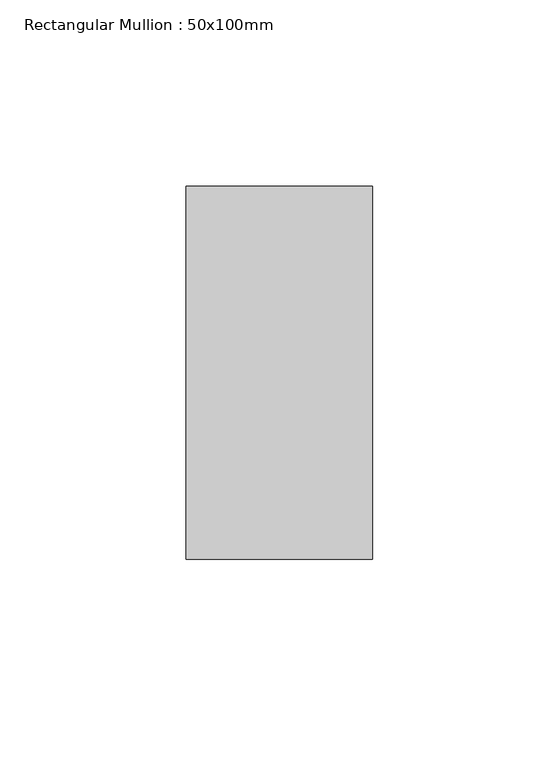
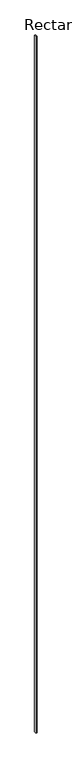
"""IFC4 building model written with IfcOpenShell, lengths in millimetres: member geometry, Rectangular Mullion : 50x100mm."""

import ifcopenshell
import ifcopenshell.guid

model = None  # the IFC model being written
_history = None  # IfcOwnerHistory: only IFC2X3 demands one
_inside = {}  # id of a spatial element -> (the spatial element, [elements in it])
_under = {}  # id of a project, library or spatial element -> (it, [spatial elements below it])
_declared = {}  # id of a project -> (the project, [libraries it declares])
_typed = {}  # id of a type object -> (the type object, [elements of that type])
_made_of = {}  # id of a material, layer set ... -> (it, [elements and type objects made of it])


def new_model(schema):
    """Start an empty IFC model of exactly this schema.

    Asked for "IFC4X3", IfcOpenShell would pick the latest addendum, in which some entities
    have other attributes; the version numbers below select the first issue.
    IFC2X3 requires an IfcOwnerHistory on every rooted entity: one is made here for all.
    """
    global model, _history
    if schema == "IFC4X3":
        model = ifcopenshell.file(schema_version=(4, 3, 0, 0))
    else:
        model = ifcopenshell.file(schema=schema)
    _inside.clear()
    _under.clear()
    _declared.clear()
    _typed.clear()
    _made_of.clear()
    _history = None
    if model.schema == "IFC2X3":
        org = make("IfcOrganization", Name="unknown")
        user = make(
            "IfcPersonAndOrganization",
            ThePerson=make("IfcPerson", FamilyName="unknown"),
            TheOrganization=org,
        )
        app = make(
            "IfcApplication",
            ApplicationDeveloper=org,
            Version="unknown",
            ApplicationFullName="unknown",
            ApplicationIdentifier="unknown",
        )
        _history = make(
            "IfcOwnerHistory",
            OwningUser=user,
            OwningApplication=app,
            ChangeAction="ADDED",
            CreationDate=0,
        )
    return model


def make(cls, **values):
    """One entity of the class cls with the attributes given. An attribute that is None is left unset."""
    return model.create_entity(
        cls, **{name: value for name, value in values.items() if value is not None}
    )


def rooted(cls, **values):
    """An entity with a GlobalId (a new one), such as an element, a storey or a relation."""
    return make(cls, GlobalId=ifcopenshell.guid.new(), OwnerHistory=_history, **values)


def si_unit(unit_type, name, prefix=None):
    """IfcSIUnit, for example si_unit("LENGTHUNIT", "METRE", prefix="MILLI")."""
    return make("IfcSIUnit", UnitType=unit_type, Prefix=prefix, Name=name)


def assignment(units):
    """IfcUnitAssignment: the units of a project."""
    return None if units is None else make("IfcUnitAssignment", Units=units)


def point(xyz):
    """IfcCartesianPoint."""
    return None if xyz is None else make("IfcCartesianPoint", Coordinates=xyz)


def direction(xyz):
    """IfcDirection."""
    return None if xyz is None else make("IfcDirection", DirectionRatios=xyz)


def frame(location, z_axis=None, x_axis=None):
    """IfcAxis2Placement3D, a coordinate frame: its origin and axes. An axis left out is left unset."""
    return make(
        "IfcAxis2Placement3D",
        Location=point(location),
        Axis=direction(z_axis),
        RefDirection=direction(x_axis),
    )


def origin():
    """The frame at (0, 0, 0) with its axes left unset."""
    return frame((0.0, 0.0, 0.0))


def place(relative_to, where):
    """IfcLocalPlacement: puts the frame where relative to a parent placement (None: the world)."""
    return make(
        "IfcLocalPlacement", PlacementRelTo=relative_to, RelativePlacement=where
    )


def context(
    kind, dimensions, precision=None, world=None, true_north=None, identifier=None
):
    """IfcGeometricRepresentationContext, for example the 3D "Model" context."""
    return make(
        "IfcGeometricRepresentationContext",
        ContextIdentifier=identifier,
        ContextType=kind,
        CoordinateSpaceDimension=dimensions,
        Precision=precision,
        WorldCoordinateSystem=world,
        TrueNorth=true_north,
    )


def project(units=None, contexts=None):
    """IfcProject with its units and contexts."""
    return rooted(
        "IfcProject",
        Name="project",
        RepresentationContexts=contexts,
        UnitsInContext=assignment(units),
    )


def spatial(cls, under=None, at=None, **own):
    """A site, building, storey or space (cls), placed at a placement, below another one or the project."""
    s = rooted(cls, ObjectPlacement=at, **own)
    if under is not None:
        _under.setdefault(under.id(), (under, []))[1].append(s)
    return s


def polyline(points):
    """IfcPolyline through the points."""
    return make("IfcPolyline", Points=[point(p) for p in points])


def outline(outer, holes=None, kind="AREA"):
    """IfcArbitraryClosedProfileDef: a profile drawn as a closed curve; with holes, ...WithVoids."""
    if holes is None:
        return make("IfcArbitraryClosedProfileDef", ProfileType=kind, OuterCurve=outer)
    return make(
        "IfcArbitraryProfileDefWithVoids",
        ProfileType=kind,
        OuterCurve=outer,
        InnerCurves=holes,
    )


def extrude(swept, where, along, depth):
    """IfcExtrudedAreaSolid: the profile swept, set in the frame where, extruded along a direction by depth."""
    return make(
        "IfcExtrudedAreaSolid",
        SweptArea=swept,
        Position=where,
        ExtrudedDirection=direction(along),
        Depth=depth,
    )


def shape(context_of_items, identifier, shape_type, items):
    """IfcShapeRepresentation: the items that make up one representation, for example the "Body"."""
    return make(
        "IfcShapeRepresentation",
        ContextOfItems=context_of_items,
        RepresentationIdentifier=identifier,
        RepresentationType=shape_type,
        Items=items,
    )


def source(mapping_origin, context_of_items, identifier, shape_type, items):
    """IfcRepresentationMap: a shape defined once, which mapped items show again and again."""
    return make(
        "IfcRepresentationMap",
        MappingOrigin=mapping_origin,
        MappedRepresentation=shape(context_of_items, identifier, shape_type, items),
    )


def transform(
    local_origin,
    x_axis=None,
    y_axis=None,
    z_axis=None,
    scale=None,
    scale2=None,
    scale3=None,
    uniform=True,
):
    """IfcCartesianTransformationOperator3D, or its non-uniform kind. x_axis, y_axis, z_axis: its Axis1, 2, 3."""
    if uniform:
        return make(
            "IfcCartesianTransformationOperator3D",
            Axis1=direction(x_axis),
            Axis2=direction(y_axis),
            LocalOrigin=point(local_origin),
            Scale=scale,
            Axis3=direction(z_axis),
        )
    return make(
        "IfcCartesianTransformationOperator3DnonUniform",
        Axis1=direction(x_axis),
        Axis2=direction(y_axis),
        LocalOrigin=point(local_origin),
        Scale=scale,
        Axis3=direction(z_axis),
        Scale2=scale2,
        Scale3=scale3,
    )


def mapped(mapping_source, mapping_target):
    """IfcMappedItem: shows the shape of a source again, moved by a transform."""
    return make(
        "IfcMappedItem", MappingSource=mapping_source, MappingTarget=mapping_target
    )


def made_of(thing, what):
    """Note that an element or type object is made of a material, layer set ...; save() writes the relation."""
    if what is not None:
        _made_of.setdefault(what.id(), (what, []))[1].append(thing)
    return thing


def element(
    cls,
    number,
    at=None,
    inside=None,
    cuts=None,
    type_object=None,
    material=None,
    context=None,
    identifier="Body",
    shape_type=None,
    held_by="IfcProductDefinitionShape",
    body=None,
    shapes=None,
    **own,
):
    """One element of the class cls, such as IfcWall. Its Tag is "e" and its number.

    at: its placement. inside: the storey or other place that contains it. cuts: it is an
    opening in that element (IfcRelVoidsElement). A single representation is given by context,
    identifier, shape_type and body (its items); several are given by shapes. held_by: the class
    of the entity that holds the representations. save() writes the other relations.
    """
    e = rooted(cls, Tag="e%d" % number, ObjectPlacement=at, **own)
    if body is not None:
        shapes = [shape(context, identifier, shape_type, body)]
    if shapes is not None:
        e.Representation = make(held_by, Representations=shapes)
    if inside is not None:
        _inside.setdefault(inside.id(), (inside, []))[1].append(e)
    if cuts is not None:
        rooted(
            "IfcRelVoidsElement", RelatingBuildingElement=cuts, RelatedOpeningElement=e
        )
    if type_object is not None:
        _typed.setdefault(type_object.id(), (type_object, []))[1].append(e)
    return made_of(e, material)


def aggregate(whole, parts):
    """IfcRelAggregates: a whole, such as a stair, and the parts it consists of."""
    return rooted("IfcRelAggregates", RelatingObject=whole, RelatedObjects=parts)


def save(model, path):
    """Write the relations noted so far, then the file.

    IfcRelAggregates (storeys below a building ...), IfcRelContainedInSpatialStructure (elements
    in a storey), IfcRelDefinesByType, IfcRelAssociatesMaterial and IfcRelDeclares: one each for
    every whole, place, type object, material and project.
    """
    for whole, parts in _under.values():
        aggregate(whole, parts)
    for where, things in _inside.values():
        rooted(
            "IfcRelContainedInSpatialStructure",
            RelatedElements=things,
            RelatingStructure=where,
        )
    for kind, things in _typed.values():
        rooted("IfcRelDefinesByType", RelatedObjects=things, RelatingType=kind)
    for what, things in _made_of.values():
        rooted("IfcRelAssociatesMaterial", RelatedObjects=things, RelatingMaterial=what)
    for by, libraries in _declared.values():
        rooted("IfcRelDeclares", RelatingContext=by, RelatedDefinitions=libraries)
    model.write(path)


def rectangular_mullion_50x100mm_5f0a7d45(model_context):
    return source(origin(), model_context, "Body", "SweptSolid", [
        extrude(outline(polyline([(25.0, 50.0), (25.0, -50.0), (-25.0, -50.0), (-25.0, 50.0), (25.0, 50.0)])), frame((0.0, 0.0, -34247.5236054), z_axis=(0.0, 0.0, 1.0), x_axis=(1.0, 0.0, 0.0)), (0.0, 0.0, 1.0), 34247.5236054),
    ])


if __name__ == "__main__":
    model = new_model("IFC4")
    model_context = context("Model", 3, world=origin())
    ifc_project = project(units=[si_unit("LENGTHUNIT", "METRE", prefix="MILLI")], contexts=[model_context])
    site = spatial("IfcSite", under=ifc_project)
    building = spatial("IfcBuilding", under=site)
    placement = place(None, origin())
    rectangular_mullion_50x100mm_shape = rectangular_mullion_50x100mm_5f0a7d45(model_context)
    element("IfcMember", 1, ObjectType="Rectangular Mullion : 50x100mm", at=placement, inside=building, context=model_context, shape_type="MappedRepresentation", body=[
        mapped(rectangular_mullion_50x100mm_shape, transform((0.0, 0.0, 0.0), x_axis=(1.0, 0.0, 0.0), y_axis=(0.0, 1.0, 0.0), z_axis=(0.0, 0.0, 1.0))),
    ])
    save(model, "model.ifc")
